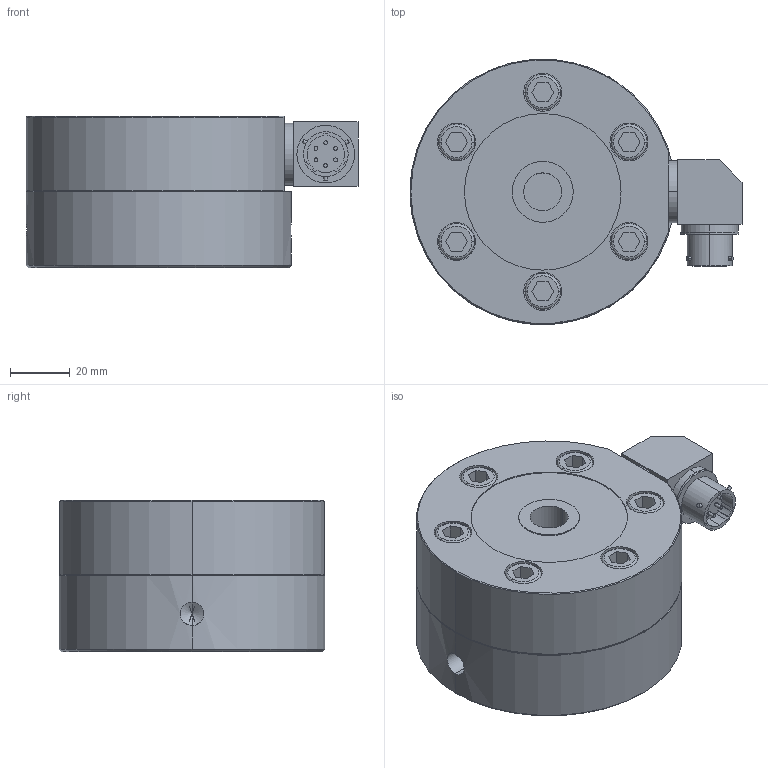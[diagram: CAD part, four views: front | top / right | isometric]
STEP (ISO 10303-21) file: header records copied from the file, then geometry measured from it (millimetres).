
FILE_DESCRIPTION (( 'STEP AP203' ), '1' );
FILE_NAME ('INTERFACE 2430-2K THRU -5K-B.STEP', '2012-01-11T18:58:42', ( ' ' ), ( '' ), 'SwSTEP 2.0', 'SolidWorks 2002349', '' );
FILE_SCHEMA (( 'CONFIG_CONTROL_DESIGN' ));
Length unit declared in the file: inch
Products named in the file (1): INTERFACE 2430-2K THRU -5K-B
Bounding box: 111.18 x 88.9 x 50.67 mm (x, y, z)
Volume: 317278.6 mm3; surface area: 36143.6 mm2
Topology: 1 solids, 1 shells, 194 faces, 459 edges, 298 vertices
Faces by surface type: plane 97, cylinder 72, cone 13, torus 12
Entity records: 5851 total; most frequent: CARTESIAN_POINT 1170, DIRECTION 1006, ORIENTED_EDGE 906, EDGE_CURVE 453, AXIS2_PLACEMENT_3D 374, VERTEX_POINT 298, VECTOR 258, LINE 258
